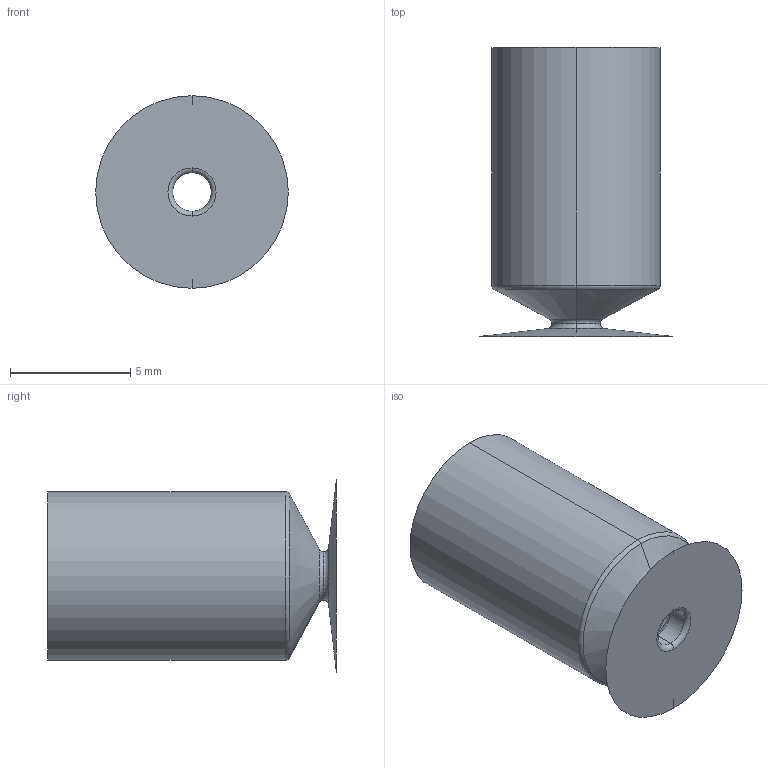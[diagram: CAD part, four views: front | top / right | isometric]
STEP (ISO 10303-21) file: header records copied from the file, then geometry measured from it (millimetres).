
FILE_DESCRIPTION (( 'STEP AP214' ), '1' );
FILE_NAME ('VSR-S8.STEP', '2019-11-18T08:57:32', ( '微软用户' ), ( '微软中国' ), 'SwSTEP 2.0', 'SolidWorks 2016', '' );
FILE_SCHEMA (( 'AUTOMOTIVE_DESIGN' ));
Length unit declared in the file: millimetre
Products named in the file (1): VSR-S8
Bounding box: 8 x 12 x 8 mm (x, y, z)
Volume: 210.6 mm3; surface area: 556.8 mm2
Topology: 1 solids, 1 shells, 28 faces, 56 edges, 30 vertices
Faces by surface type: torus 12, cylinder 8, cone 6, plane 2
Entity records: 764 total; most frequent: DIRECTION 156, CARTESIAN_POINT 115, ORIENTED_EDGE 112, AXIS2_PLACEMENT_3D 71, EDGE_CURVE 56, CIRCLE 42, EDGE_LOOP 30, VERTEX_POINT 30
